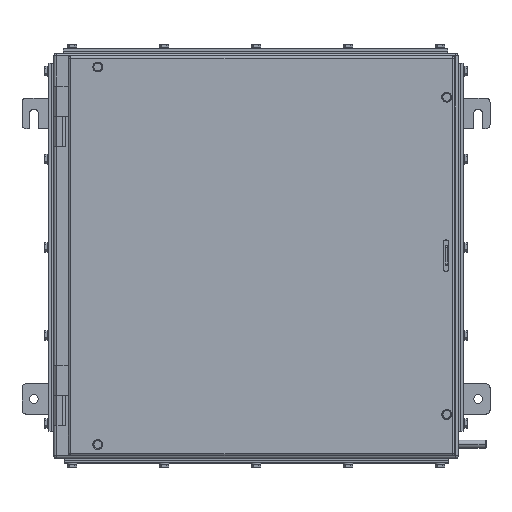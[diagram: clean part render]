
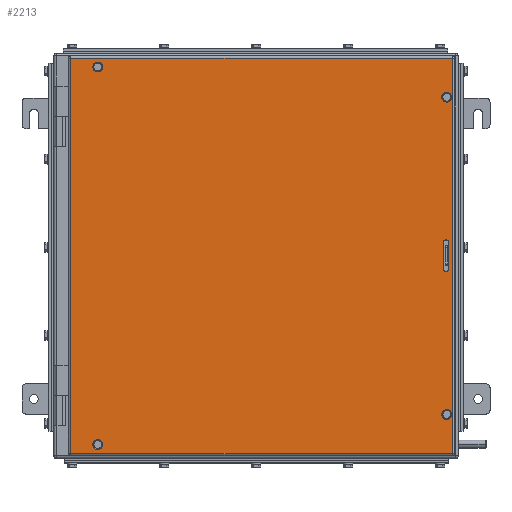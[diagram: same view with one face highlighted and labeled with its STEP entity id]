
A CAD part, top view. The second image highlights one B-rep face of the part: STEP entity #2213.
In plain terms, the highlighted planar face has unit normal (0, 0, 1).
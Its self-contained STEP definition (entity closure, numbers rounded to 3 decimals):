
#106 = DIRECTION ( 'NONE',  ( 1., 0., 0. ) ) ;
#141 = DIRECTION ( 'NONE',  ( 0., 0., 1. ) ) ;
#245 = DIRECTION ( 'NONE',  ( 1., 0., 0. ) ) ;
#327 = DIRECTION ( 'NONE',  ( 1., 0., 0. ) ) ;
#605 = CARTESIAN_POINT ( 'NONE',  ( 495., -249., 18. ) ) ;
#810 = DIRECTION ( 'NONE',  ( 0., -1., 0. ) ) ;
#1086 = CARTESIAN_POINT ( 'NONE',  ( 498., 249., 18. ) ) ;
#1401 = VERTEX_POINT ( 'NONE', #25076 ) ;
#1428 = ORIENTED_EDGE ( 'NONE', *, *, #16338, .F. ) ;
#1741 = DIRECTION ( 'NONE',  ( 0., 0., 1. ) ) ;
#2039 = CIRCLE ( 'NONE', #11979, 3.5 ) ;
#2174 = DIRECTION ( 'NONE',  ( 0., 0., 1. ) ) ;
#2213 = ADVANCED_FACE ( 'NONE', ( #16823, #15201, #19498, #17576, #26889, #17865 ), #26448, .F. ) ;
#2276 = DIRECTION ( 'NONE',  ( 0., 1., 0. ) ) ;
#2315 = DIRECTION ( 'NONE',  ( 0., 0., 1. ) ) ;
#2563 = EDGE_LOOP ( 'NONE', ( #11803, #7363 ) ) ;
#2778 = VECTOR ( 'NONE', #17539, 1000. ) ;
#2902 = CARTESIAN_POINT ( 'NONE',  ( 48., -238., 18. ) ) ;
#3269 = EDGE_LOOP ( 'NONE', ( #6017, #27337, #14101, #27996 ) ) ;
#4249 = AXIS2_PLACEMENT_3D ( 'NONE', #2902, #2315, #245 ) ;
#4407 = CIRCLE ( 'NONE', #12447, 3.5 ) ;
#4607 = EDGE_CURVE ( 'NONE', #22808, #7899, #21373, .T. ) ;
#4639 = VERTEX_POINT ( 'NONE', #12051 ) ;
#4707 = VECTOR ( 'NONE', #24059, 1000. ) ;
#4794 = EDGE_CURVE ( 'NONE', #5682, #1401, #4407, .T. ) ;
#4989 = DIRECTION ( 'NONE',  ( 1., 0., 0. ) ) ;
#5652 = VECTOR ( 'NONE', #810, 1000. ) ;
#5682 = VERTEX_POINT ( 'NONE', #8790 ) ;
#5704 = EDGE_CURVE ( 'NONE', #18405, #28089, #13376, .T. ) ;
#6017 = ORIENTED_EDGE ( 'NONE', *, *, #18477, .T. ) ;
#7065 = CARTESIAN_POINT ( 'NONE',  ( 48., 238., 18. ) ) ;
#7119 = DIRECTION ( 'NONE',  ( 1., 0., 0. ) ) ;
#7363 = ORIENTED_EDGE ( 'NONE', *, *, #22299, .F. ) ;
#7626 = CARTESIAN_POINT ( 'NONE',  ( 488., 200., 18. ) ) ;
#7651 = VECTOR ( 'NONE', #27868, 1000. ) ;
#7806 = AXIS2_PLACEMENT_3D ( 'NONE', #28716, #10520, #24437 ) ;
#7896 = VERTEX_POINT ( 'NONE', #23982 ) ;
#7899 = VERTEX_POINT ( 'NONE', #11745 ) ;
#7914 = DIRECTION ( 'NONE',  ( 1., 0., 0. ) ) ;
#7985 = DIRECTION ( 'NONE',  ( 0., 0., 1. ) ) ;
#8225 = EDGE_LOOP ( 'NONE', ( #8682, #1428 ) ) ;
#8346 = CARTESIAN_POINT ( 'NONE',  ( 495., 252., 18. ) ) ;
#8682 = ORIENTED_EDGE ( 'NONE', *, *, #24330, .F. ) ;
#8727 = CARTESIAN_POINT ( 'NONE',  ( 44.5, -238., 18. ) ) ;
#8790 = CARTESIAN_POINT ( 'NONE',  ( 491.5, -200., 18. ) ) ;
#9322 = ORIENTED_EDGE ( 'NONE', *, *, #16033, .F. ) ;
#9352 = DIRECTION ( 'NONE',  ( 0., 0., 1. ) ) ;
#9379 = ORIENTED_EDGE ( 'NONE', *, *, #28378, .F. ) ;
#9388 = AXIS2_PLACEMENT_3D ( 'NONE', #12135, #18366, #7119 ) ;
#9561 = EDGE_CURVE ( 'NONE', #7899, #26345, #11274, .T. ) ;
#10280 = DIRECTION ( 'NONE',  ( 0., 0., 1. ) ) ;
#10520 = DIRECTION ( 'NONE',  ( 0., 0., 1. ) ) ;
#10627 = EDGE_CURVE ( 'NONE', #4639, #19971, #25521, .T. ) ;
#10727 = CIRCLE ( 'NONE', #9388, 3.5 ) ;
#10799 = CARTESIAN_POINT ( 'NONE',  ( 48., 238., 18. ) ) ;
#10870 = CIRCLE ( 'NONE', #4249, 3.5 ) ;
#11274 = LINE ( 'NONE', #29032, #21540 ) ;
#11651 = EDGE_LOOP ( 'NONE', ( #26901, #20398, #19380, #14478 ) ) ;
#11745 = CARTESIAN_POINT ( 'NONE',  ( 14., 249., 18. ) ) ;
#11803 = ORIENTED_EDGE ( 'NONE', *, *, #14668, .F. ) ;
#11979 = AXIS2_PLACEMENT_3D ( 'NONE', #22767, #27623, #4989 ) ;
#12051 = CARTESIAN_POINT ( 'NONE',  ( 483.5, 16.5, 18. ) ) ;
#12135 = CARTESIAN_POINT ( 'NONE',  ( 488., -200., 18. ) ) ;
#12447 = AXIS2_PLACEMENT_3D ( 'NONE', #24899, #9352, #327 ) ;
#12523 = CARTESIAN_POINT ( 'NONE',  ( 490.5, -16.5, 18. ) ) ;
#12723 = AXIS2_PLACEMENT_3D ( 'NONE', #10799, #7985, #21617 ) ;
#12829 = CARTESIAN_POINT ( 'NONE',  ( 491.5, 200., 18. ) ) ;
#13356 = EDGE_LOOP ( 'NONE', ( #24068, #9379 ) ) ;
#13376 = LINE ( 'NONE', #21717, #13435 ) ;
#13390 = AXIS2_PLACEMENT_3D ( 'NONE', #7065, #2174, #106 ) ;
#13435 = VECTOR ( 'NONE', #2276, 1000. ) ;
#13769 = AXIS2_PLACEMENT_3D ( 'NONE', #21881, #24234, #15495 ) ;
#14101 = ORIENTED_EDGE ( 'NONE', *, *, #4607, .T. ) ;
#14478 = ORIENTED_EDGE ( 'NONE', *, *, #22613, .F. ) ;
#14612 = DIRECTION ( 'NONE',  ( 1., 0., 0. ) ) ;
#14668 = EDGE_CURVE ( 'NONE', #7896, #22115, #10870, .T. ) ;
#15029 = CARTESIAN_POINT ( 'NONE',  ( 498., -249., 18. ) ) ;
#15045 = EDGE_CURVE ( 'NONE', #20359, #22808, #26711, .T. ) ;
#15201 = FACE_BOUND ( 'NONE', #2563, .T. ) ;
#15495 = DIRECTION ( 'NONE',  ( -1., 0., 0. ) ) ;
#16033 = EDGE_CURVE ( 'NONE', #23688, #25856, #23158, .T. ) ;
#16338 = EDGE_CURVE ( 'NONE', #17683, #19013, #22697, .T. ) ;
#16823 = FACE_BOUND ( 'NONE', #11651, .T. ) ;
#16907 = CARTESIAN_POINT ( 'NONE',  ( 44.5, 238., 18. ) ) ;
#16960 = CARTESIAN_POINT ( 'NONE',  ( 490.5, 16.5, 18. ) ) ;
#17539 = DIRECTION ( 'NONE',  ( 0., 1., 0. ) ) ;
#17576 = FACE_BOUND ( 'NONE', #8225, .T. ) ;
#17683 = VERTEX_POINT ( 'NONE', #27510 ) ;
#17865 = FACE_OUTER_BOUND ( 'NONE', #3269, .T. ) ;
#17964 = AXIS2_PLACEMENT_3D ( 'NONE', #7626, #10280, #7914 ) ;
#18366 = DIRECTION ( 'NONE',  ( 0., 0., 1. ) ) ;
#18405 = VERTEX_POINT ( 'NONE', #12523 ) ;
#18477 = EDGE_CURVE ( 'NONE', #26345, #20359, #19468, .T. ) ;
#18579 = AXIS2_PLACEMENT_3D ( 'NONE', #27074, #141, #25006 ) ;
#18628 = CARTESIAN_POINT ( 'NONE',  ( 14., -249., 18. ) ) ;
#19013 = VERTEX_POINT ( 'NONE', #12829 ) ;
#19085 = EDGE_CURVE ( 'NONE', #28089, #4639, #19800, .T. ) ;
#19380 = ORIENTED_EDGE ( 'NONE', *, *, #5704, .F. ) ;
#19468 = LINE ( 'NONE', #15029, #4707 ) ;
#19498 = FACE_BOUND ( 'NONE', #13356, .T. ) ;
#19800 = CIRCLE ( 'NONE', #23578, 3.5 ) ;
#19971 = VERTEX_POINT ( 'NONE', #26071 ) ;
#20359 = VERTEX_POINT ( 'NONE', #605 ) ;
#20398 = ORIENTED_EDGE ( 'NONE', *, *, #19085, .F. ) ;
#21373 = LINE ( 'NONE', #1086, #7651 ) ;
#21453 = CIRCLE ( 'NONE', #13390, 3.5 ) ;
#21540 = VECTOR ( 'NONE', #25048, 1000. ) ;
#21617 = DIRECTION ( 'NONE',  ( 1., 0., 0. ) ) ;
#21717 = CARTESIAN_POINT ( 'NONE',  ( 490.5, 16.5, 18. ) ) ;
#21881 = CARTESIAN_POINT ( 'NONE',  ( 498., 252., 18. ) ) ;
#21897 = CIRCLE ( 'NONE', #18579, 3.5 ) ;
#22007 = CIRCLE ( 'NONE', #7806, 3.5 ) ;
#22023 = CARTESIAN_POINT ( 'NONE',  ( 487., 16.5, 18. ) ) ;
#22115 = VERTEX_POINT ( 'NONE', #8727 ) ;
#22299 = EDGE_CURVE ( 'NONE', #22115, #7896, #21897, .T. ) ;
#22457 = ORIENTED_EDGE ( 'NONE', *, *, #22714, .F. ) ;
#22613 = EDGE_CURVE ( 'NONE', #19971, #18405, #2039, .T. ) ;
#22697 = CIRCLE ( 'NONE', #17964, 3.5 ) ;
#22714 = EDGE_CURVE ( 'NONE', #25856, #23688, #21453, .T. ) ;
#22767 = CARTESIAN_POINT ( 'NONE',  ( 487., -16.5, 18. ) ) ;
#22808 = VERTEX_POINT ( 'NONE', #28180 ) ;
#23158 = CIRCLE ( 'NONE', #12723, 3.5 ) ;
#23578 = AXIS2_PLACEMENT_3D ( 'NONE', #22023, #1741, #14612 ) ;
#23600 = CARTESIAN_POINT ( 'NONE',  ( 483.5, 16.5, 18. ) ) ;
#23688 = VERTEX_POINT ( 'NONE', #16907 ) ;
#23982 = CARTESIAN_POINT ( 'NONE',  ( 51.5, -238., 18. ) ) ;
#24059 = DIRECTION ( 'NONE',  ( 1., 0., 0. ) ) ;
#24068 = ORIENTED_EDGE ( 'NONE', *, *, #4794, .F. ) ;
#24234 = DIRECTION ( 'NONE',  ( 0., 0., -1. ) ) ;
#24330 = EDGE_CURVE ( 'NONE', #19013, #17683, #22007, .T. ) ;
#24437 = DIRECTION ( 'NONE',  ( 1., 0., 0. ) ) ;
#24899 = CARTESIAN_POINT ( 'NONE',  ( 488., -200., 18. ) ) ;
#25006 = DIRECTION ( 'NONE',  ( 1., 0., 0. ) ) ;
#25048 = DIRECTION ( 'NONE',  ( 0., -1., 0. ) ) ;
#25076 = CARTESIAN_POINT ( 'NONE',  ( 484.5, -200., 18. ) ) ;
#25521 = LINE ( 'NONE', #23600, #5652 ) ;
#25856 = VERTEX_POINT ( 'NONE', #27380 ) ;
#26071 = CARTESIAN_POINT ( 'NONE',  ( 483.5, -16.5, 18. ) ) ;
#26345 = VERTEX_POINT ( 'NONE', #18628 ) ;
#26448 = PLANE ( 'NONE',  #13769 ) ;
#26711 = LINE ( 'NONE', #8346, #2778 ) ;
#26889 = FACE_BOUND ( 'NONE', #26950, .T. ) ;
#26901 = ORIENTED_EDGE ( 'NONE', *, *, #10627, .F. ) ;
#26950 = EDGE_LOOP ( 'NONE', ( #22457, #9322 ) ) ;
#27074 = CARTESIAN_POINT ( 'NONE',  ( 48., -238., 18. ) ) ;
#27337 = ORIENTED_EDGE ( 'NONE', *, *, #15045, .T. ) ;
#27380 = CARTESIAN_POINT ( 'NONE',  ( 51.5, 238., 18. ) ) ;
#27510 = CARTESIAN_POINT ( 'NONE',  ( 484.5, 200., 18. ) ) ;
#27623 = DIRECTION ( 'NONE',  ( 0., 0., 1. ) ) ;
#27868 = DIRECTION ( 'NONE',  ( -1., 0., 0. ) ) ;
#27996 = ORIENTED_EDGE ( 'NONE', *, *, #9561, .T. ) ;
#28089 = VERTEX_POINT ( 'NONE', #16960 ) ;
#28180 = CARTESIAN_POINT ( 'NONE',  ( 495., 249., 18. ) ) ;
#28378 = EDGE_CURVE ( 'NONE', #1401, #5682, #10727, .T. ) ;
#28716 = CARTESIAN_POINT ( 'NONE',  ( 488., 200., 18. ) ) ;
#29032 = CARTESIAN_POINT ( 'NONE',  ( 14., 252., 18. ) ) ;
